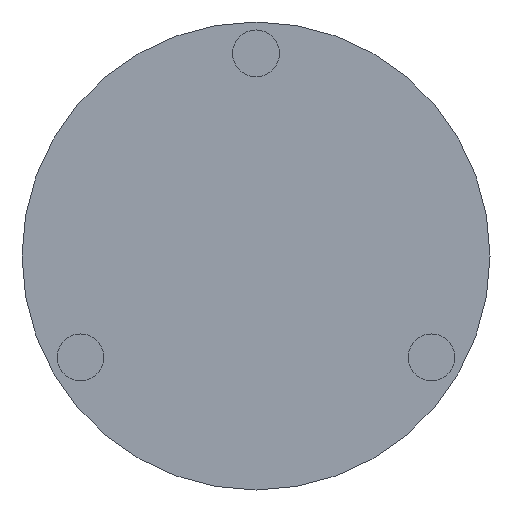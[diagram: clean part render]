
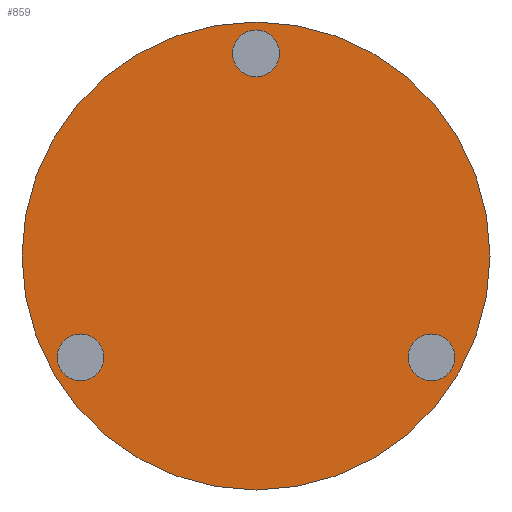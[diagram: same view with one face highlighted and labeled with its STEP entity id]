
A CAD part, front view. The second image highlights one B-rep face of the part: STEP entity #859.
In plain terms, the highlighted planar face has unit normal (0, -1, 0).
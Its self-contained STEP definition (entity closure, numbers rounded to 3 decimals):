
#71=PLANE('',#947);
#98=FACE_OUTER_BOUND('',#152,.T.);
#152=EDGE_LOOP('',(#593,#594));
#254=CIRCLE('',#944,150.);
#255=CIRCLE('',#945,150.);
#359=VERTEX_POINT('',#1455);
#360=VERTEX_POINT('',#1457);
#460=EDGE_CURVE('',#359,#360,#254,.T.);
#461=EDGE_CURVE('',#360,#359,#255,.T.);
#593=ORIENTED_EDGE('',*,*,#461,.F.);
#594=ORIENTED_EDGE('',*,*,#460,.F.);
#859=ADVANCED_FACE('',(#98),#71,.F.);
#944=AXIS2_PLACEMENT_3D('',#1458,#1112,#1113);
#945=AXIS2_PLACEMENT_3D('',#1459,#1114,#1115);
#947=AXIS2_PLACEMENT_3D('',#1461,#1118,#1119);
#1112=DIRECTION('center_axis',(0.,1.,0.));
#1113=DIRECTION('ref_axis',(-1.,0.,0.));
#1114=DIRECTION('center_axis',(0.,1.,0.));
#1115=DIRECTION('ref_axis',(-1.,0.,0.));
#1118=DIRECTION('center_axis',(0.,1.,0.));
#1119=DIRECTION('ref_axis',(0.,0.,1.));
#1455=CARTESIAN_POINT('',(150.,0.,0.));
#1457=CARTESIAN_POINT('',(-150.,0.,0.));
#1458=CARTESIAN_POINT('Origin',(0.,0.,0.));
#1459=CARTESIAN_POINT('Origin',(0.,0.,0.));
#1461=CARTESIAN_POINT('Origin',(0.,0.,0.));
